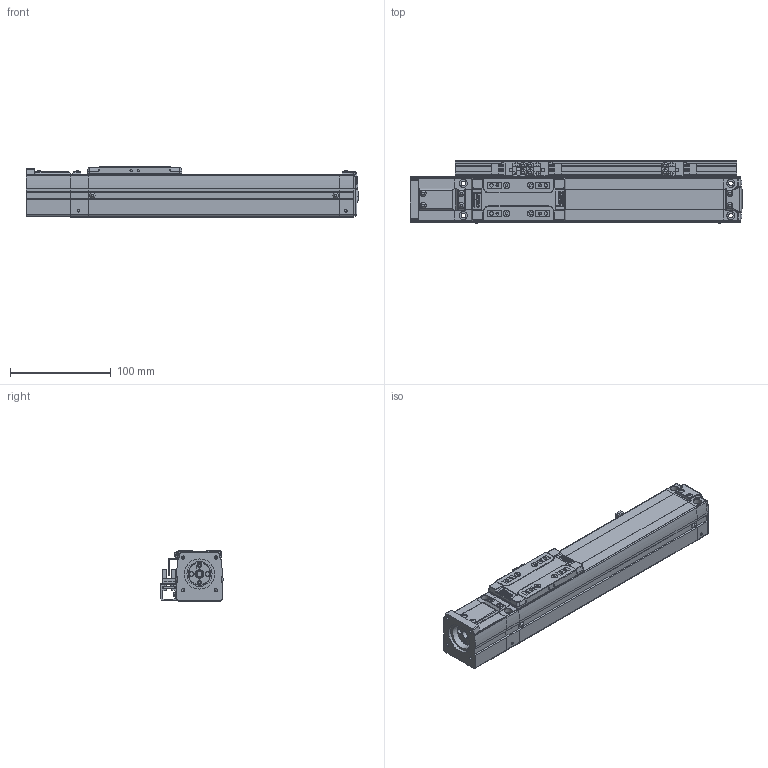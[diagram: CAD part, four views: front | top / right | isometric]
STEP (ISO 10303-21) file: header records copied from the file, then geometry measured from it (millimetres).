
FILE_DESCRIPTION(('STEP AP214'),'1');
FILE_NAME('Z:/Web/3D/SAN45/STP/SAN45ㅁㅁ-150S+3SL.stp','2012-06-15T04:26:56',(' '),(' '),'Spatial InterOp 3D',' ',' ');
FILE_SCHEMA(('automotive_design'));
Length unit declared in the file: metre
Products named in the file (86): SAN45__-150; BODY-SAN45; REAR-SAN45; RRCV-SAN45; BHCS M3 x 6L; BHCS M3 X 6L; FRONT-SAN45; SHAFT; RN8 x 0.75; SSFX-SAN45; SLIDE-SAN45; SLCV-IM45; FHCS M3 x 6L; ____92; S; MTHZ-SAN45; SDWB 22C-6-8; SDWB22C(2); SDWB22C(2)_1; SDWB22C(3); SDWB22C(3)_1; SDWB22C(3)_2; SDWB22C(3)_3; SDWB22C(3)_4; SDWB22C(3)_5; SDWB22C(3)_6; SDWB22C(3)_7; SDWB22C(3)_8; SDWB22C(3)_9; SDWB22C(3)_10; SDWB22C(3)_11; SDWB22C(3)_12; SDWB22C(3)_13; SDWB22C(3)_14; SDWB22C(3)_15; SDWB22C(4); SDWB22C(5); SDWB22C(5)_1; SDWB22C(5)_2; SDWB22C(5)_3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
Assembly tree (85 placements, depth 4):
  ____92
    SAN45__-150
      BODY-SAN45
      REAR-SAN45
        REAR-SAN45
        RRCV-SAN45
        BHCS M3 x 6L
        BHCS M3 X 6L
        BHCS M3 x 6L
        BHCS M3 x 6L
        BHCS M3 x 6L
        BHCS M3 x 6L
      FRONT-SAN45
        FRONT-SAN45
        SHAFT
        RN8 x 0.75
        SSFX-SAN45
        BHCS M3 x 6L
        BHCS M3 x 6L
        BHCS M3 x 6L
        BHCS M3 x 6L
      SLIDE-SAN45
        SLIDE-SAN45
        SLCV-IM45
        FHCS M3 x 6L
        FHCS M3 x 6L
        FHCS M3 x 6L
        FHCS M3 x 6L
    S
      MTHZ-SAN45
      SDWB 22C-6-8
        SDWB22C(2)
        SDWB22C(2)_1
        SDWB22C(3)
        SDWB22C(3)_1
        SDWB22C(3)_2
        SDWB22C(3)_3
        SDWB22C(3)_4
        SDWB22C(3)_5
        SDWB22C(3)_6
        SDWB22C(3)_7
        SDWB22C(3)_8
        SDWB22C(3)_9
        SDWB22C(3)_10
        SDWB22C(3)_11
        SDWB22C(3)_12
        SDWB22C(3)_13
        SDWB22C(3)_14
        SDWB22C(3)_15
        SDWB22C(4)
        SDWB22C(5)
        SDWB22C(5)_1
        SDWB22C(5)_2
        SDWB22C(5)_3
        SDWB22C(5)_4
        SDWB22C(5)_5
        SDWB22C(5)_6
        SDWB22C(5)_7
        SDWA22C(1)
        SDWA22C(1)
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Bounding box: 330.15 x 62.06 x 50 mm (x, y, z)
Volume: 636330.2 mm3; surface area: 162929.2 mm2
Topology: 74 solids, 74 shells, 2372 faces, 6034 edges, 3893 vertices
Faces by surface type: plane 1432, cylinder 656, cone 154, sphere 54, bspline 46, torus 27, extrusion 3
Full cylindrical faces by diameter (mm): 0.376 x2, 0.47 x1, 1.137 x2, 1.421 x1, 1.665 x4, 2.081 x2, 2.2 x4, 2.5 x45, 2.6 x14, 2.7 x2, 3 x10, 3.193 x4, 3.3 x8, 3.4 x4, 3.5 x16, 3.991 x2, 4.2 x6, 4.5 x28, 4.9 x2, 5 x13, 6 x9, 6.5 x2, 7 x1, 8 x9, 9 x1, 10.7 x2, 13 x1, 15 x1, 19 x1, 22.2 x3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
Entity records: 94098 total; most frequent: CARTESIAN_POINT 17019, DIRECTION 11905, ORIENTED_EDGE 11024, EDGE_CURVE 5512, AXIS2_PLACEMENT_3D 4146, VERTEX_POINT 3764, VECTOR 3613, LINE 3610
